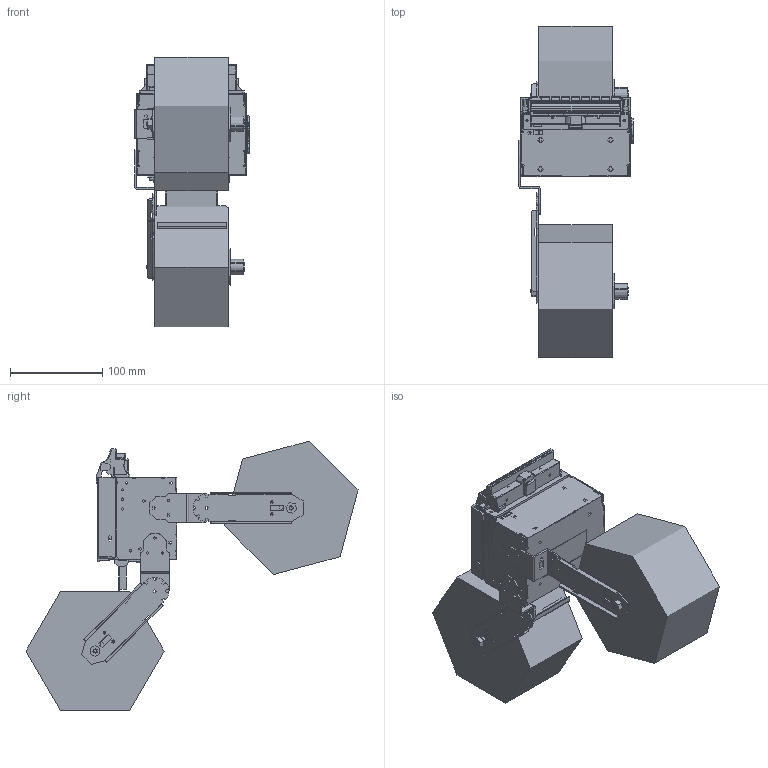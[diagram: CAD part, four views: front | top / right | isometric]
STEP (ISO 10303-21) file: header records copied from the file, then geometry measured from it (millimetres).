
FILE_DESCRIPTION((''),'2;1');
FILE_NAME('EP802_TM_0A_ASM','2022-04-21T17:41:20',('Administrator'),(''),'CREO PARAMETRIC BY PTC INC, 2019010','CREO PARAMETRIC BY PTC INC, 2019010','');
FILE_SCHEMA(('AUTOMOTIVE_DESIGN { 1 0 10303 214 1 1 1 1 }'));
Length unit declared in the file: millimetre
Products named in the file (16): EP802_TM11_ASM_1; EP802_TM11_ASM_2; EP802_TM11_ASM_3; EP802_TM11_ASM_4; EP802_TM11_ASM_5; EP802_TM11_ASM_6; EP802_TM11_ASM_7; EP802_TM11_ASM_8; EP802_TM11_ASM_9; EP802_TM11_ASM_10; EP802_TM11_ASM_11; EP802_TM11_ASM_12; EP802_TM11_ASM_13; EP802_TM11_ASM_ASM; 0001; EP802_TM_0A_ASM
Assembly tree (15 placements, depth 3):
  EP802_TM_0A_ASM
    EP802_TM11_ASM_ASM
      EP802_TM11_ASM_1
      EP802_TM11_ASM_2
      EP802_TM11_ASM_3
      EP802_TM11_ASM_4
      EP802_TM11_ASM_5
      EP802_TM11_ASM_6
      EP802_TM11_ASM_7
      EP802_TM11_ASM_8
      EP802_TM11_ASM_9
      EP802_TM11_ASM_10
      EP802_TM11_ASM_11
      EP802_TM11_ASM_12
      EP802_TM11_ASM_13
    0001
Bounding box: 124.3 x 360.59 x 292.9 mm (x, y, z)
Topology: 14 solids, 115 shells, 4479 faces, 14277 edges, 10052 vertices
Faces by surface type: plane 2435, cylinder 1729, cone 109, bspline 93, torus 63, extrusion 38, sphere 12
Full cylindrical faces by diameter (mm): 0.6 x2
Entity records: 191418 total; most frequent: CARTESIAN_POINT 61091, ORIENTED_EDGE 26512, DIRECTION 26041, EDGE_CURVE 14259, VERTEX_POINT 10062, VECTOR 9615, LINE 9577, AXIS2_PLACEMENT_3D 8213
